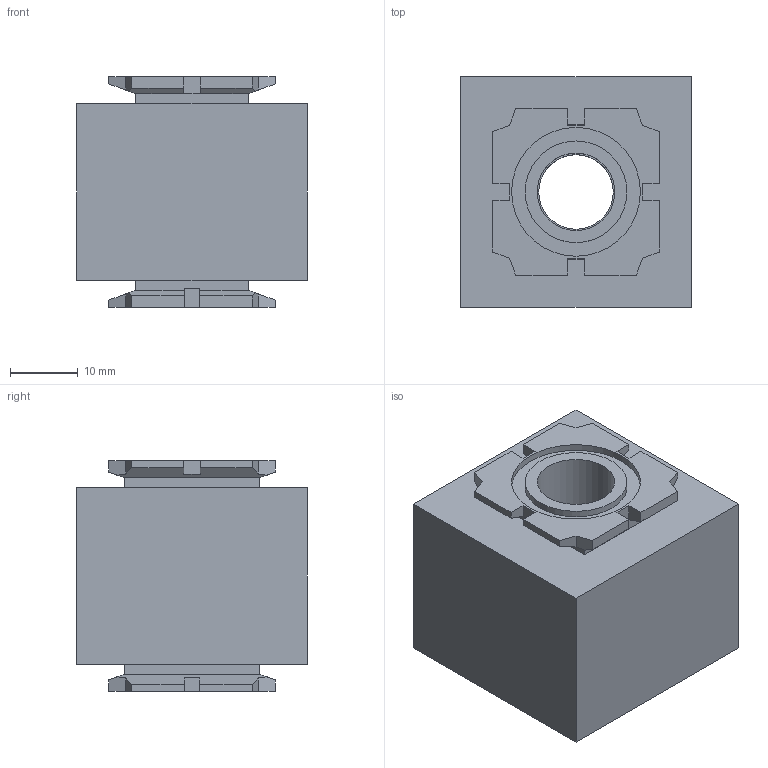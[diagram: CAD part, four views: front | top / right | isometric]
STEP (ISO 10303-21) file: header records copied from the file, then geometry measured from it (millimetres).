
FILE_DESCRIPTION( ( 'STEP AP214' ), '1' );
FILE_NAME( 'C:/Users/EMC02301/Desktop/EA气源配件/EA2001-02.stp', '2026-08-27T05:53:08', ( 'License CC BY-ND 4.0' ), ( 'CADENAS' ), ' ', 'PARTsolutions', ' ' );
FILE_SCHEMA( ( 'AUTOMOTIVE_DESIGN { 1 0 10303 214 1 1 1 1 }' ) );
Length unit declared in the file: millimetre
Products named in the file (3): EA2001-02; _EA2001-02-dummy; _EA2001-02-body
Assembly tree (2 placements, depth 2):
  EA2001-02
    _EA2001-02-dummy
    _EA2001-02-body
Bounding box: 34 x 34 x 34 mm (x, y, z)
Volume: 28654.8 mm3; surface area: 8809.9 mm2
Topology: 1 solids, 1 shells, 104 faces, 271 edges, 178 vertices
Faces by surface type: plane 95, cylinder 9
Full cylindrical faces by diameter (mm): 11 x2, 11.445 x3, 15 x2, 19 x2
Entity records: 3956 total; most frequent: CARTESIAN_POINT 542, ORIENTED_EDGE 518, DIRECTION 492, EDGE_CURVE 259, LINE 240, VECTOR 240, VERTEX_POINT 175, AXIS2_PLACEMENT_3D 126
